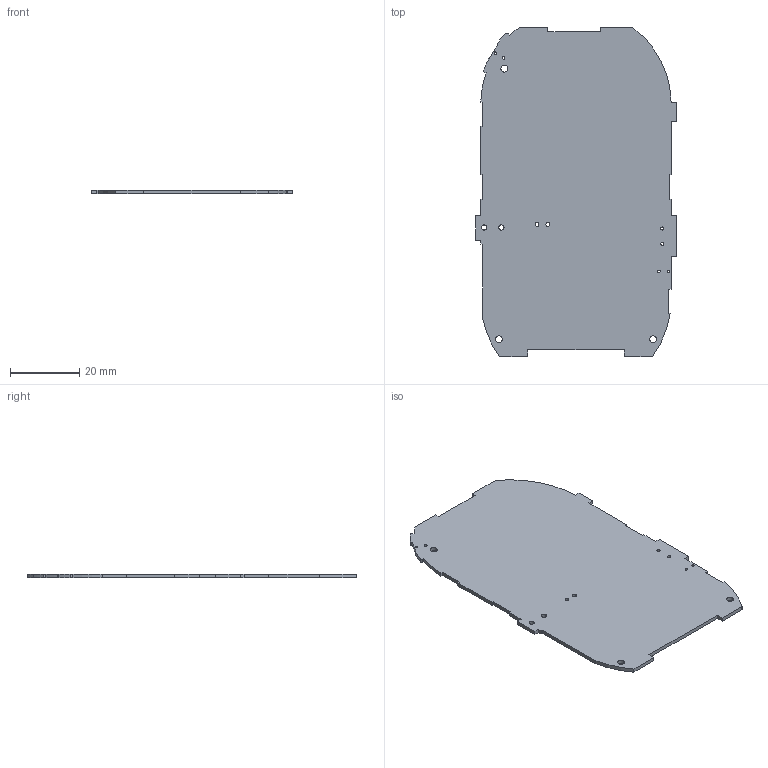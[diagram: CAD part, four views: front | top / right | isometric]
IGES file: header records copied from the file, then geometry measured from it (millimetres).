
Start section:  PTC IGES file: ct0gps-a-mpm1_prt.igs
Global section: file name: ct0gps-a-mpm1_prt.igs; native system: Pro/ENGINEER by Parametric Technology Corporation; preprocessor: 2006170; author: GRA; organization: Unknown; date: 20080630.105139; units: millimetre
Bounding box: 58 x 95.1 x 1.1 mm (x, y, z)
Surface area: 10295.6 mm2 (no closed solid volume)
Topology: 0 solids, 0 shells, 83 faces, 486 edges, 486 vertices
Faces by surface type: bspline 46, revolution 37
